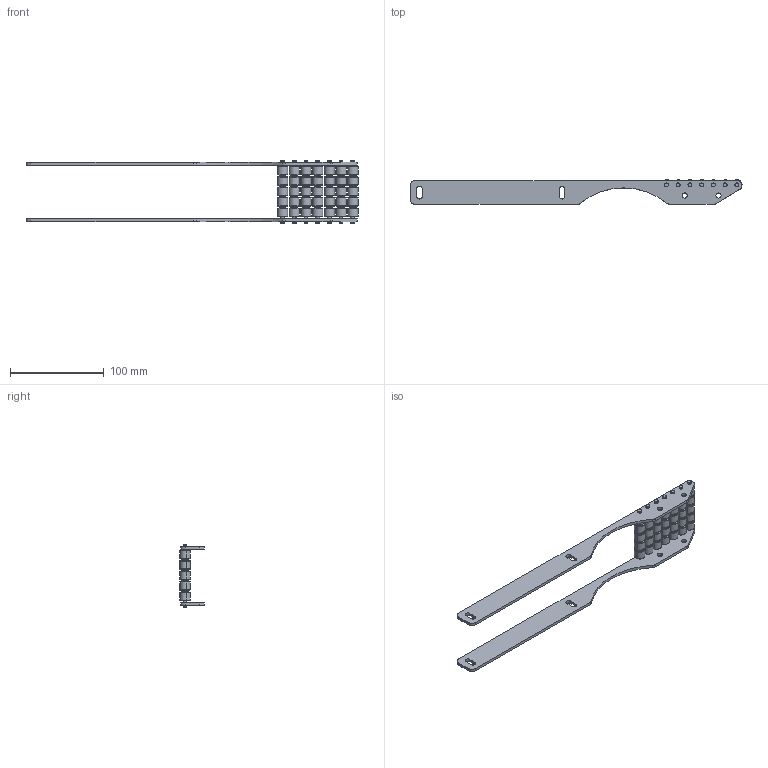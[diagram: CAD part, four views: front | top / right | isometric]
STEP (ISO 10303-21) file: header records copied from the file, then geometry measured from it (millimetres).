
FILE_DESCRIPTION (( 'STEP AP214' ), '1' );
FILE_NAME ('FKTB-DRR.STEP', '2011-04-19T06:06:49', ( '.' ), ( '' ), 'SwSTEP 2.0', 'SolidWorks 2010', '' );
FILE_SCHEMA (( 'AUTOMOTIVE_DESIGN' ));
Length unit declared in the file: millimetre
Products named in the file (1): FKTB-DRR
Bounding box: 353.69 x 26.04 x 67 mm (x, y, z)
Volume: 75699.1 mm3; surface area: 61736.2 mm2
Topology: 44 solids, 44 shells, 1036 faces, 2480 edges, 1630 vertices
Faces by surface type: torus 420, cylinder 410, plane 206
Entity records: 47959 total; most frequent: CARTESIAN_POINT 10397, DIRECTION 6144, ORIENTED_EDGE 4960, AXIS2_PLACEMENT_3D 2837, EDGE_CURVE 2480, CIRCLE 1800, VERTEX_POINT 1630, EDGE_LOOP 1248
